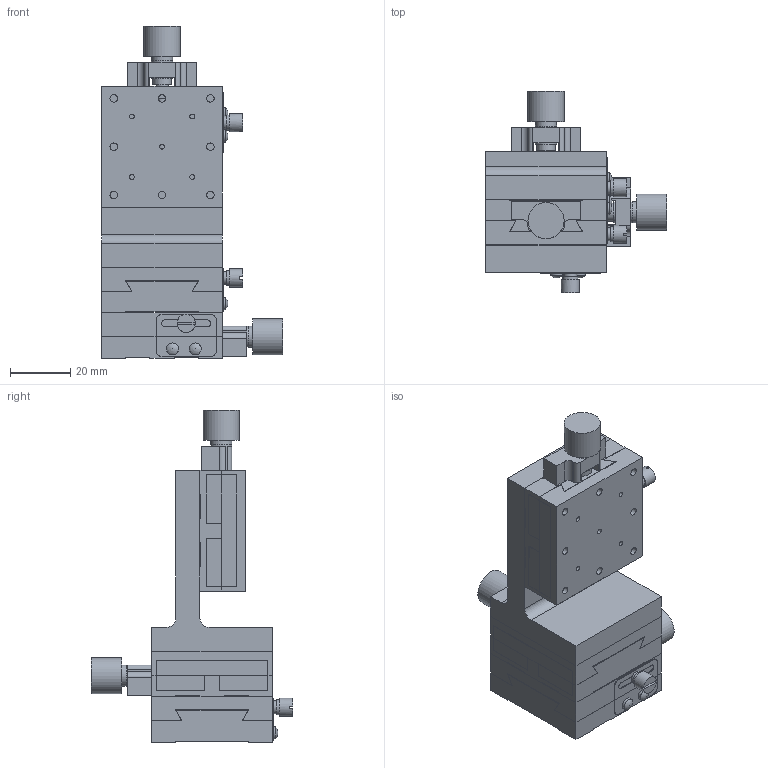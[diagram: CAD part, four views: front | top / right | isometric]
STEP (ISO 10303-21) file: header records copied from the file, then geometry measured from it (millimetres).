
FILE_DESCRIPTION( ( 'STEP AP203' ), '1' );
FILE_NAME( 'C:/3D-Trans/3D_B08-17R+090717.step', '2009-07-17T07:04:29', ( ' ' ), ( ' ' ), 'XStep 1.0', ' ', ' ' );
FILE_SCHEMA( ( 'CONFIG_CONTROL_DESIGN' ) );
Length unit declared in the file: millimetre
Products named in the file (7): 1; 2; 3; 4; 5; 6; 7
Bounding box: 60.15 x 66.7 x 110 mm (x, y, z)
Volume: 101222.4 mm3; surface area: 49566.7 mm2
Topology: 7 solids, 19 shells, 525 faces, 1482 edges, 1022 vertices
Faces by surface type: plane 319, cylinder 197, sphere 6, cone 3
Full cylindrical faces by diameter (mm): 1.6 x15, 2 x3, 2.2 x3, 2.5 x54, 3 x12, 3.2 x6, 3.5 x12, 4 x9, 4.3 x3, 4.5 x6, 5 x3, 6 x6, 6.5 x12, 7 x12, 12 x3
Entity records: 16554 total; most frequent: CARTESIAN_POINT 3285, DIRECTION 2652, ORIENTED_EDGE 2406, EDGE_CURVE 1203, AXIS2_PLACEMENT_3D 929, VERTEX_POINT 914, EDGE_LOOP 888, LINE 794
